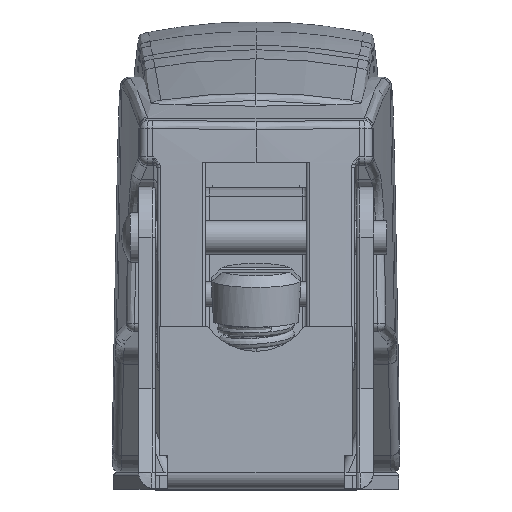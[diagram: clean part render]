
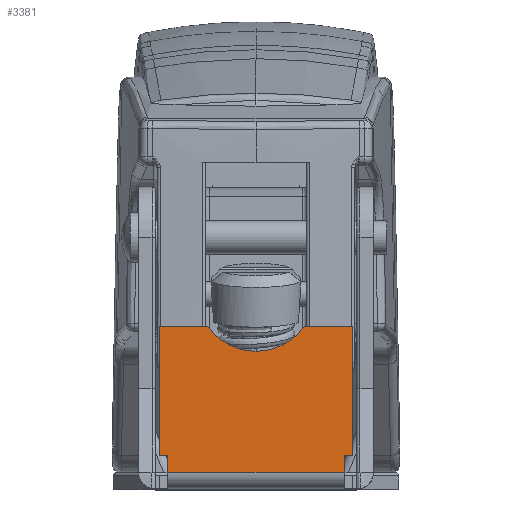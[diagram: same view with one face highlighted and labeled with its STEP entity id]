
A CAD part, top view. The second image highlights one B-rep face of the part: STEP entity #3381.
In plain terms, the highlighted planar face has unit normal (0, 0, 1).
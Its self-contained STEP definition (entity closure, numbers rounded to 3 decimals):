
#1=DIRECTION('',(-1.,0.,0.));
#2=VECTOR('',#1,10.5);
#3=CARTESIAN_POINT('',(5.25,1.,1.));
#4=LINE('',#3,#2);
#5=DIRECTION('',(0.,-1.,0.));
#6=VECTOR('',#5,1.);
#7=CARTESIAN_POINT('',(-5.25,2.,1.));
#8=LINE('',#7,#6);
#9=DIRECTION('',(1.,0.,0.));
#10=VECTOR('',#9,0.5);
#11=CARTESIAN_POINT('',(-5.75,2.,1.));
#12=LINE('',#11,#10);
#13=DIRECTION('',(0.,-1.,0.));
#14=VECTOR('',#13,7.7);
#15=CARTESIAN_POINT('',(-5.75,9.7,1.));
#16=LINE('',#15,#14);
#17=DIRECTION('',(-1.,0.,0.));
#18=VECTOR('',#17,2.878);
#19=CARTESIAN_POINT('',(-2.872,9.7,1.));
#20=LINE('',#19,#18);
#21=CARTESIAN_POINT('',(0.,11.7,1.));
#22=DIRECTION('',(0.,0.,-1.));
#23=DIRECTION('',(0.821,-0.571,0.));
#24=AXIS2_PLACEMENT_3D('',#21,#22,#23);
#26=DIRECTION('',(-1.,0.,0.));
#27=VECTOR('',#26,2.878);
#28=CARTESIAN_POINT('',(5.75,9.7,1.));
#29=LINE('',#28,#27);
#30=DIRECTION('',(0.,1.,0.));
#31=VECTOR('',#30,7.7);
#32=CARTESIAN_POINT('',(5.75,2.,1.));
#33=LINE('',#32,#31);
#34=DIRECTION('',(1.,0.,0.));
#35=VECTOR('',#34,0.5);
#36=CARTESIAN_POINT('',(5.25,2.,1.));
#37=LINE('',#36,#35);
#38=DIRECTION('',(0.,1.,0.));
#39=VECTOR('',#38,1.);
#40=CARTESIAN_POINT('',(5.25,1.,1.));
#41=LINE('',#40,#39);
#2663=CARTESIAN_POINT('',(2.872,9.7,1.));
#2664=CARTESIAN_POINT('',(-2.872,9.7,1.));
#2665=VERTEX_POINT('',#2663);
#2666=VERTEX_POINT('',#2664);
#2667=CARTESIAN_POINT('',(5.75,9.7,1.));
#2668=VERTEX_POINT('',#2667);
#2669=CARTESIAN_POINT('',(5.75,2.,1.));
#2670=VERTEX_POINT('',#2669);
#2690=CARTESIAN_POINT('',(5.25,1.,1.));
#2691=CARTESIAN_POINT('',(-5.25,1.,1.));
#2692=VERTEX_POINT('',#2690);
#2693=VERTEX_POINT('',#2691);
#2714=CARTESIAN_POINT('',(-5.75,9.7,1.));
#2715=CARTESIAN_POINT('',(-5.75,2.,1.));
#2716=VERTEX_POINT('',#2714);
#2717=VERTEX_POINT('',#2715);
#2891=CARTESIAN_POINT('',(-5.25,2.,1.));
#2892=VERTEX_POINT('',#2891);
#2893=CARTESIAN_POINT('',(5.25,2.,1.));
#2894=VERTEX_POINT('',#2893);
#3354=CARTESIAN_POINT('',(0.,-21.5,1.));
#3355=DIRECTION('',(0.,0.,1.));
#3356=DIRECTION('',(0.,-1.,0.));
#3357=AXIS2_PLACEMENT_3D('',#3354,#3355,#3356);
#3358=PLANE('',#3357);
#3360=ORIENTED_EDGE('',*,*,#3359,.T.);
#3362=ORIENTED_EDGE('',*,*,#3361,.F.);
#3364=ORIENTED_EDGE('',*,*,#3363,.F.);
#3366=ORIENTED_EDGE('',*,*,#3365,.F.);
#3368=ORIENTED_EDGE('',*,*,#3367,.F.);
#3370=ORIENTED_EDGE('',*,*,#3369,.F.);
#3372=ORIENTED_EDGE('',*,*,#3371,.F.);
#3374=ORIENTED_EDGE('',*,*,#3373,.F.);
#3376=ORIENTED_EDGE('',*,*,#3375,.F.);
#3378=ORIENTED_EDGE('',*,*,#3377,.F.);
#3379=EDGE_LOOP('',(#3360,#3362,#3364,#3366,#3368,#3370,#3372,#3374,#3376,
#3378));
#3380=FACE_OUTER_BOUND('',#3379,.F.);
#3381=ADVANCED_FACE('',(#3380),#3358,.T.);
#25=CIRCLE('',#24,3.5);
#3359=EDGE_CURVE('',#2692,#2693,#4,.T.);
#3361=EDGE_CURVE('',#2892,#2693,#8,.T.);
#3363=EDGE_CURVE('',#2717,#2892,#12,.T.);
#3365=EDGE_CURVE('',#2716,#2717,#16,.T.);
#3367=EDGE_CURVE('',#2666,#2716,#20,.T.);
#3369=EDGE_CURVE('',#2665,#2666,#25,.T.);
#3371=EDGE_CURVE('',#2668,#2665,#29,.T.);
#3373=EDGE_CURVE('',#2670,#2668,#33,.T.);
#3375=EDGE_CURVE('',#2894,#2670,#37,.T.);
#3377=EDGE_CURVE('',#2692,#2894,#41,.T.);
